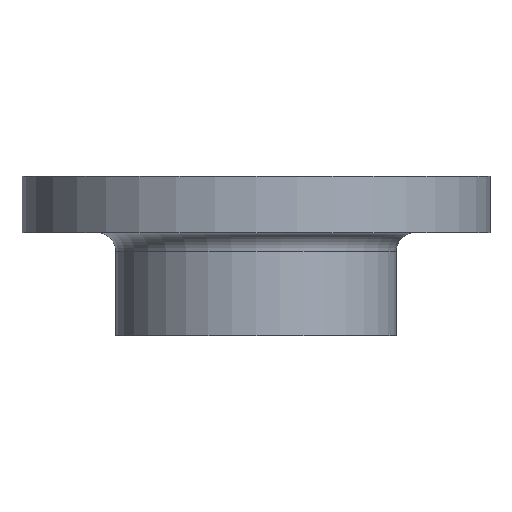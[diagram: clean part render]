
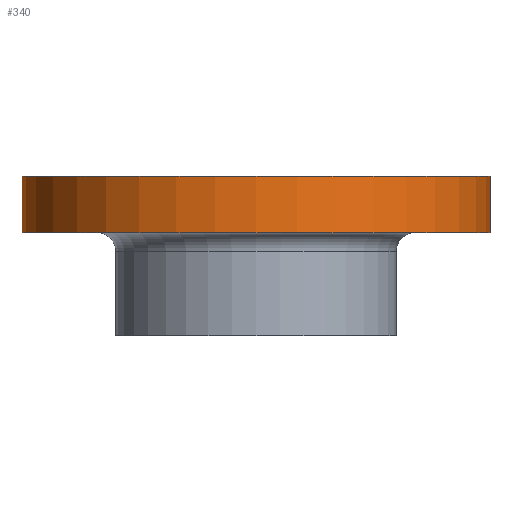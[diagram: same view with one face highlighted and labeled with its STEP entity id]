
A CAD part, front view. The second image highlights one B-rep face of the part: STEP entity #340.
In plain terms, the highlighted cylindrical face has radius 100 mm (diameter 200 mm), a partial arc.
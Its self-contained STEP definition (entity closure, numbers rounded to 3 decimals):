
#26 = EDGE_CURVE ( 'NONE', #570, #453, #79, .T. ) ;
#79 = CIRCLE ( 'NONE', #458, 100. ) ;
#93 = FACE_OUTER_BOUND ( 'NONE', #814, .T. ) ;
#99 = EDGE_CURVE ( 'NONE', #810, #495, #179, .T. ) ;
#124 = VECTOR ( 'NONE', #229, 1000. ) ;
#159 = CARTESIAN_POINT ( 'NONE',  ( -100., 0., -24. ) ) ;
#169 = AXIS2_PLACEMENT_3D ( 'NONE', #538, #539, #541 ) ;
#179 = CIRCLE ( 'NONE', #169, 100. ) ;
#229 = DIRECTION ( 'NONE',  ( 0., 0., 1. ) ) ;
#230 = CARTESIAN_POINT ( 'NONE',  ( 100., 0., -68. ) ) ;
#231 = LINE ( 'NONE', #230, #124 ) ;
#254 = CARTESIAN_POINT ( 'NONE',  ( -100., 0., 0. ) ) ;
#270 = CARTESIAN_POINT ( 'NONE',  ( 100., 0., -24. ) ) ;
#290 = CARTESIAN_POINT ( 'NONE',  ( 100., 0., 0. ) ) ;
#315 = DIRECTION ( 'NONE',  ( 0., 0., 1. ) ) ;
#316 = CARTESIAN_POINT ( 'NONE',  ( -100., 0., -68. ) ) ;
#317 = LINE ( 'NONE', #316, #410 ) ;
#340 = ADVANCED_FACE ( 'NONE', ( #93 ), #429, .T. ) ;
#369 = AXIS2_PLACEMENT_3D ( 'NONE', #430, #374, #598 ) ;
#374 = DIRECTION ( 'NONE',  ( 0., 0., 1. ) ) ;
#410 = VECTOR ( 'NONE', #315, 1000. ) ;
#412 = EDGE_CURVE ( 'NONE', #810, #570, #317, .T. ) ;
#429 = CYLINDRICAL_SURFACE ( 'NONE', #369, 100. ) ;
#430 = CARTESIAN_POINT ( 'NONE',  ( 0., 0., -68. ) ) ;
#453 = VERTEX_POINT ( 'NONE', #290 ) ;
#458 = AXIS2_PLACEMENT_3D ( 'NONE', #859, #860, #861 ) ;
#495 = VERTEX_POINT ( 'NONE', #270 ) ;
#538 = CARTESIAN_POINT ( 'NONE',  ( 0., 0., -24. ) ) ;
#539 = DIRECTION ( 'NONE',  ( 0., 0., 1. ) ) ;
#541 = DIRECTION ( 'NONE',  ( 1., 0., 0. ) ) ;
#570 = VERTEX_POINT ( 'NONE', #254 ) ;
#598 = DIRECTION ( 'NONE',  ( 1., 0., 0. ) ) ;
#617 = EDGE_CURVE ( 'NONE', #495, #453, #231, .T. ) ;
#694 = ORIENTED_EDGE ( 'NONE', *, *, #412, .F. ) ;
#695 = ORIENTED_EDGE ( 'NONE', *, *, #99, .T. ) ;
#696 = ORIENTED_EDGE ( 'NONE', *, *, #617, .T. ) ;
#698 = ORIENTED_EDGE ( 'NONE', *, *, #26, .F. ) ;
#810 = VERTEX_POINT ( 'NONE', #159 ) ;
#814 = EDGE_LOOP ( 'NONE', ( #694, #695, #696, #698 ) ) ;
#859 = CARTESIAN_POINT ( 'NONE',  ( 0., 0., 0. ) ) ;
#860 = DIRECTION ( 'NONE',  ( 0., 0., 1. ) ) ;
#861 = DIRECTION ( 'NONE',  ( 1., 0., 0. ) ) ;
